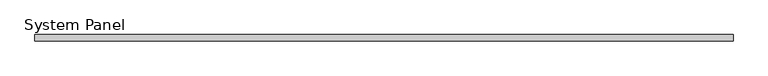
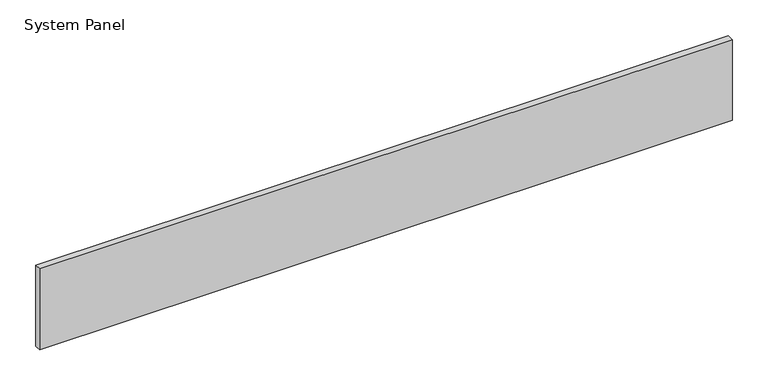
"""IFC4 building model written with IfcOpenShell, lengths in millimetres: plate geometry, System Panel : VACÍO."""

from ifc_helpers import new_model, si_unit, origin, origin_with_axes, place, context, project, spatial, polyline, outline, extrude, source, transform, mapped, element, save


def system_panel_9ad5222e(model_context):
    return source(origin(), model_context, "Body", "SweptSolid", [
        extrude(outline(polyline([(555.7609662, -5.0), (-555.7609662, -5.0), (-555.7609662, 5.0), (555.7609662, 5.0), (555.7609662, -5.0)])), origin_with_axes(), (0.0, 0.0, 1.0), 137.0338449),
    ])


if __name__ == "__main__":
    model = new_model("IFC4")
    model_context = context("Model", 3, world=origin())
    ifc_project = project(units=[si_unit("LENGTHUNIT", "METRE", prefix="MILLI")], contexts=[model_context])
    site = spatial("IfcSite", under=ifc_project)
    building = spatial("IfcBuilding", under=site)
    placement = place(None, origin())
    system_panel_shape = system_panel_9ad5222e(model_context)
    element("IfcPlate", 1, ObjectType="System Panel : VACÍO", at=placement, inside=building, context=model_context, shape_type="MappedRepresentation", body=[
        mapped(system_panel_shape, transform((0.0, 0.0, 0.0), x_axis=(1.0, 0.0, 0.0), y_axis=(0.0, 1.0, 0.0), z_axis=(0.0, 0.0, 1.0))),
    ])
    save(model, "model.ifc")
